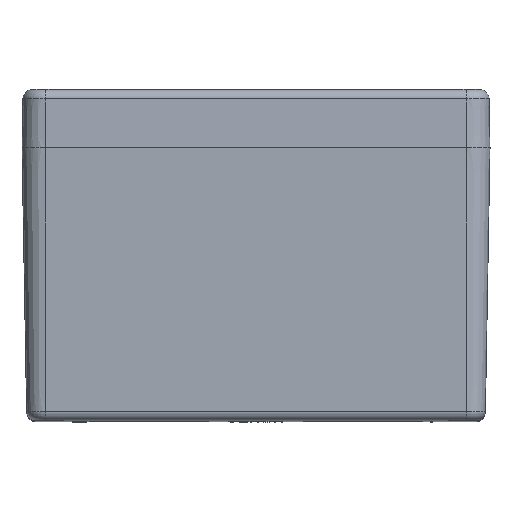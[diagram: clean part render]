
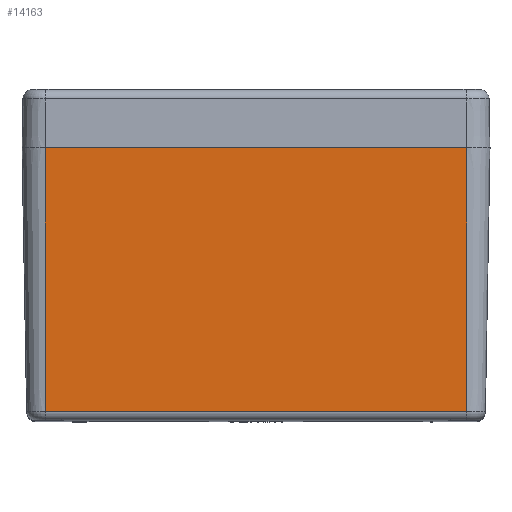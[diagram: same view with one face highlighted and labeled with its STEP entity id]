
A CAD part, top view. The second image highlights one B-rep face of the part: STEP entity #14163.
In plain terms, the highlighted planar face has unit normal (0, -0.018, 1).
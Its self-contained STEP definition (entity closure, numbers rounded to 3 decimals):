
#68 = FACE_OUTER_BOUND ( 'NONE', #17155, .T. ) ;
#945 = LINE ( 'NONE', #24102, #16738 ) ;
#1306 = DIRECTION ( 'NONE',  ( 0., -0.017, 1. ) ) ;
#2349 = LINE ( 'NONE', #3003, #13679 ) ;
#2571 = ORIENTED_EDGE ( 'NONE', *, *, #23028, .F. ) ;
#3003 = CARTESIAN_POINT ( 'NONE',  ( -54., 0., 61. ) ) ;
#3371 = VECTOR ( 'NONE', #3862, 1000. ) ;
#3862 = DIRECTION ( 'NONE',  ( 0., 1., 0.017 ) ) ;
#4936 = ORIENTED_EDGE ( 'NONE', *, *, #6372, .F. ) ;
#5188 = CARTESIAN_POINT ( 'NONE',  ( 54., 0., 61. ) ) ;
#6372 = EDGE_CURVE ( 'NONE', #26198, #17891, #25692, .T. ) ;
#7782 = EDGE_CURVE ( 'NONE', #15329, #17891, #25374, .T. ) ;
#9811 = VERTEX_POINT ( 'NONE', #20960 ) ;
#13679 = VECTOR ( 'NONE', #17890, 1000. ) ;
#14163 = ADVANCED_FACE ( 'NONE', ( #68 ), #16085, .T. ) ;
#15329 = VERTEX_POINT ( 'NONE', #27734 ) ;
#16085 = PLANE ( 'NONE',  #22255 ) ;
#16275 = DIRECTION ( 'NONE',  ( 0., -1., -0.017 ) ) ;
#16491 = CARTESIAN_POINT ( 'NONE',  ( 54., 0., 61. ) ) ;
#16546 = CARTESIAN_POINT ( 'NONE',  ( -54., 0., 61. ) ) ;
#16738 = VECTOR ( 'NONE', #17774, 1000. ) ;
#16788 = ORIENTED_EDGE ( 'NONE', *, *, #7782, .T. ) ;
#17155 = EDGE_LOOP ( 'NONE', ( #2571, #17443, #16788, #4936 ) ) ;
#17443 = ORIENTED_EDGE ( 'NONE', *, *, #21704, .T. ) ;
#17774 = DIRECTION ( 'NONE',  ( 1., 0., 0. ) ) ;
#17890 = DIRECTION ( 'NONE',  ( 0., 1., 0.017 ) ) ;
#17891 = VERTEX_POINT ( 'NONE', #5188 ) ;
#20006 = VECTOR ( 'NONE', #24524, 1000. ) ;
#20242 = CARTESIAN_POINT ( 'NONE',  ( -54., 0., 61. ) ) ;
#20373 = CARTESIAN_POINT ( 'NONE',  ( -54., 0., 61. ) ) ;
#20960 = CARTESIAN_POINT ( 'NONE',  ( -54., -67.544, 59.821 ) ) ;
#21704 = EDGE_CURVE ( 'NONE', #9811, #15329, #945, .T. ) ;
#22255 = AXIS2_PLACEMENT_3D ( 'NONE', #20373, #1306, #16275 ) ;
#23028 = EDGE_CURVE ( 'NONE', #9811, #26198, #2349, .T. ) ;
#24102 = CARTESIAN_POINT ( 'NONE',  ( 54., -67.544, 59.821 ) ) ;
#24524 = DIRECTION ( 'NONE',  ( 1., 0., 0. ) ) ;
#25374 = LINE ( 'NONE', #16491, #3371 ) ;
#25692 = LINE ( 'NONE', #20242, #20006 ) ;
#26198 = VERTEX_POINT ( 'NONE', #16546 ) ;
#27734 = CARTESIAN_POINT ( 'NONE',  ( 54., -67.544, 59.821 ) ) ;
